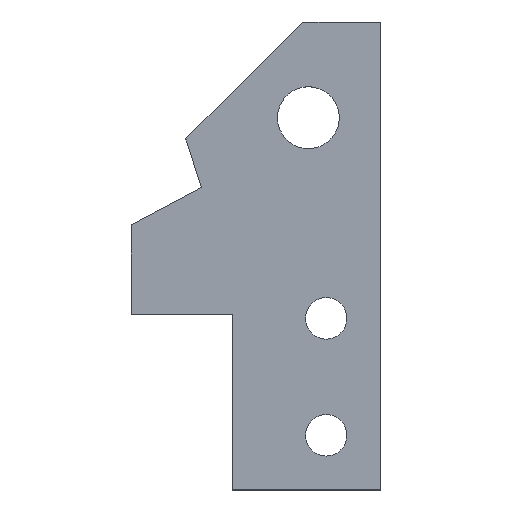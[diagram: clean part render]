
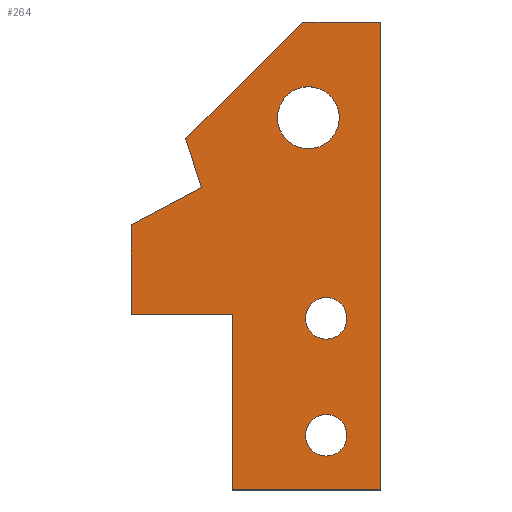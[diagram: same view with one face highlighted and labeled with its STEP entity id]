
A CAD part, top view. The second image highlights one B-rep face of the part: STEP entity #264.
In plain terms, the highlighted planar face has unit normal (0, 0, 1).
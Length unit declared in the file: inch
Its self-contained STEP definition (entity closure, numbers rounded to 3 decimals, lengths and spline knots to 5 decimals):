
#17=LINE('',#386,#44);
#21=LINE('',#393,#48);
#22=LINE('',#396,#49);
#25=LINE('',#402,#52);
#26=LINE('',#404,#53);
#27=LINE('',#406,#54);
#28=LINE('',#408,#55);
#29=LINE('',#410,#56);
#30=LINE('',#411,#57);
#44=VECTOR('',#318,0.65);
#48=VECTOR('',#324,1.125);
#49=VECTOR('',#327,0.575);
#52=VECTOR('',#332,0.95);
#53=VECTOR('',#333,3.);
#54=VECTOR('',#334,0.5);
#55=VECTOR('',#335,1.06066);
#56=VECTOR('',#336,0.32626);
#57=VECTOR('',#337,0.51059);
#72=PLANE('',#286);
#83=FACE_BOUND('',#113,.T.);
#84=FACE_BOUND('',#114,.T.);
#85=FACE_BOUND('',#115,.T.);
#95=FACE_OUTER_BOUND('',#112,.T.);
#112=EDGE_LOOP('',(#207,#208,#209,#210,#211,#212,#213,#214,#215));
#113=EDGE_LOOP('',(#216));
#114=EDGE_LOOP('',(#217));
#115=EDGE_LOOP('',(#218));
#126=CIRCLE('',#275,0.133);
#128=CIRCLE('',#278,0.1985);
#130=CIRCLE('',#281,0.133);
#132=VERTEX_POINT('',#365);
#134=VERTEX_POINT('',#370);
#136=VERTEX_POINT('',#375);
#140=VERTEX_POINT('',#383);
#141=VERTEX_POINT('',#385);
#143=VERTEX_POINT('',#391);
#144=VERTEX_POINT('',#395);
#146=VERTEX_POINT('',#401);
#147=VERTEX_POINT('',#403);
#148=VERTEX_POINT('',#405);
#149=VERTEX_POINT('',#407);
#150=VERTEX_POINT('',#409);
#156=EDGE_CURVE('',#132,#132,#126,.T.);
#158=EDGE_CURVE('',#134,#134,#128,.T.);
#160=EDGE_CURVE('',#136,#136,#130,.T.);
#164=EDGE_CURVE('',#141,#140,#17,.T.);
#168=EDGE_CURVE('',#140,#143,#21,.T.);
#169=EDGE_CURVE('',#144,#141,#22,.T.);
#172=EDGE_CURVE('',#143,#146,#25,.T.);
#173=EDGE_CURVE('',#146,#147,#26,.T.);
#174=EDGE_CURVE('',#147,#148,#27,.T.);
#175=EDGE_CURVE('',#148,#149,#28,.T.);
#176=EDGE_CURVE('',#149,#150,#29,.T.);
#177=EDGE_CURVE('',#150,#144,#30,.T.);
#207=ORIENTED_EDGE('',*,*,#164,.T.);
#208=ORIENTED_EDGE('',*,*,#168,.T.);
#209=ORIENTED_EDGE('',*,*,#172,.T.);
#210=ORIENTED_EDGE('',*,*,#173,.T.);
#211=ORIENTED_EDGE('',*,*,#174,.T.);
#212=ORIENTED_EDGE('',*,*,#175,.T.);
#213=ORIENTED_EDGE('',*,*,#176,.T.);
#214=ORIENTED_EDGE('',*,*,#177,.T.);
#215=ORIENTED_EDGE('',*,*,#169,.T.);
#216=ORIENTED_EDGE('',*,*,#156,.T.);
#217=ORIENTED_EDGE('',*,*,#158,.T.);
#218=ORIENTED_EDGE('',*,*,#160,.T.);
#264=ADVANCED_FACE('',(#95,#83,#84,#85),#72,.T.);
#275=AXIS2_PLACEMENT_3D('',#366,#298,#299);
#278=AXIS2_PLACEMENT_3D('',#371,#304,#305);
#281=AXIS2_PLACEMENT_3D('',#376,#310,#311);
#286=AXIS2_PLACEMENT_3D('',#400,#330,#331);
#298=DIRECTION('center_axis',(0.,0.,-1.));
#299=DIRECTION('ref_axis',(1.,0.,0.));
#304=DIRECTION('center_axis',(0.,0.,-1.));
#305=DIRECTION('ref_axis',(1.,0.,0.));
#310=DIRECTION('center_axis',(0.,0.,-1.));
#311=DIRECTION('ref_axis',(1.,0.,0.));
#318=DIRECTION('',(1.,0.,0.));
#324=DIRECTION('',(0.,-1.,0.));
#327=DIRECTION('',(0.,-1.,0.));
#330=DIRECTION('center_axis',(0.,0.,1.));
#331=DIRECTION('ref_axis',(1.,0.,0.));
#332=DIRECTION('',(1.,0.,0.));
#333=DIRECTION('',(0.,1.,0.));
#334=DIRECTION('',(-1.,0.,0.));
#335=DIRECTION('',(-0.707,-0.707,0.));
#336=DIRECTION('',(0.309,-0.951,0.));
#337=DIRECTION('',(-0.883,-0.469,0.));
#365=CARTESIAN_POINT('',(1.117,1.1,0.1875));
#366=CARTESIAN_POINT('Origin',(1.25,1.1,0.1875));
#370=CARTESIAN_POINT('',(0.93734,2.38672,0.1875));
#371=CARTESIAN_POINT('Origin',(1.13584,2.38672,0.1875));
#375=CARTESIAN_POINT('',(1.117,0.35,0.1875));
#376=CARTESIAN_POINT('Origin',(1.25,0.35,0.1875));
#383=CARTESIAN_POINT('',(0.65,1.125,0.1875));
#385=CARTESIAN_POINT('',(0.,1.125,0.1875));
#386=CARTESIAN_POINT('',(0.4,1.125,0.1875));
#391=CARTESIAN_POINT('',(0.65,0.,0.1875));
#393=CARTESIAN_POINT('',(0.65,1.3125,0.1875));
#395=CARTESIAN_POINT('',(0.,1.7,0.1875));
#396=CARTESIAN_POINT('',(0.,3.,0.1875));
#400=CARTESIAN_POINT('Origin',(0.8,1.5,0.1875));
#401=CARTESIAN_POINT('',(1.6,0.,0.1875));
#402=CARTESIAN_POINT('',(0.,0.,0.1875));
#403=CARTESIAN_POINT('',(1.6,3.,0.1875));
#404=CARTESIAN_POINT('',(1.6,0.,0.1875));
#405=CARTESIAN_POINT('',(1.1,3.,0.1875));
#406=CARTESIAN_POINT('',(1.6,3.,0.1875));
#407=CARTESIAN_POINT('',(0.35,2.25,0.1875));
#408=CARTESIAN_POINT('',(0.65,2.55,0.1875));
#409=CARTESIAN_POINT('',(0.45082,1.93971,0.1875));
#410=CARTESIAN_POINT('',(0.4817,1.84468,0.1875));
#411=CARTESIAN_POINT('',(0.4958,1.96362,0.1875));
